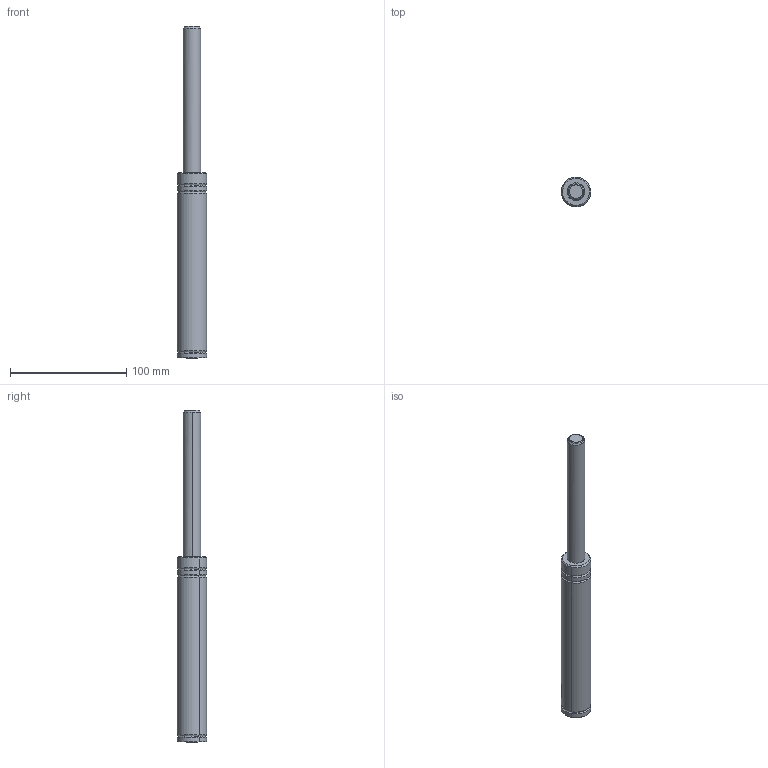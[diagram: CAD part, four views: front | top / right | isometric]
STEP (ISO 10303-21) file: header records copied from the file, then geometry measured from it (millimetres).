
FILE_DESCRIPTION(('CATIA V5 STEP Exchange'),'2;1');
FILE_NAME('W:\CATALOGO GENERAL 2018\FICHEROS CAD\001-MICRO\MICRO 25V\MICRO25Vx125.stp','2021-07-27T06:53:32+00:00',('none'),('none'),'CATIA Version 5 Release 17 (IN-10)','CATIA V5 STEP AP203','none');
FILE_SCHEMA(('CONFIG_CONTROL_DESIGN'));
Length unit declared in the file: millimetre
Products named in the file (1): MICRO25Vx125
Bounding box: 25.19 x 25.2 x 285 mm (x, y, z)
Volume: 100971.3 mm3; surface area: 20095.8 mm2
Topology: 2 solids, 2 shells, 42 faces, 83 edges, 46 vertices
Faces by surface type: torus 18, cylinder 12, cone 7, plane 5
Entity records: 1135 total; most frequent: CARTESIAN_POINT 282, ORIENTED_EDGE 166, DIRECTION 148, AXIS2_PLACEMENT_3D 94, EDGE_CURVE 83, CIRCLE 57, VERTEX_POINT 46, EDGE_LOOP 43
